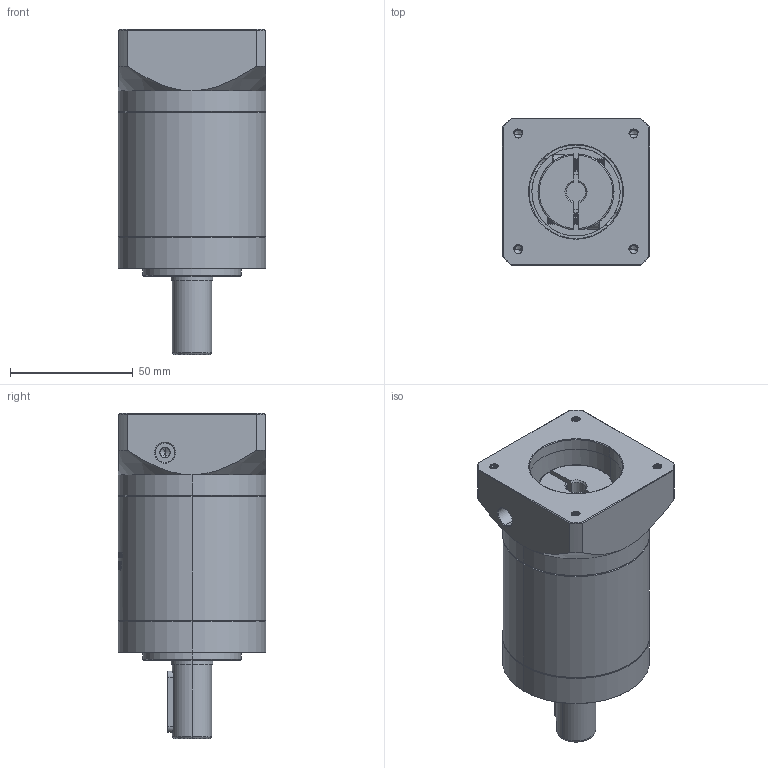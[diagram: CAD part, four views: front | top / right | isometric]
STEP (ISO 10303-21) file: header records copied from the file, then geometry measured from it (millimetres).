
FILE_DESCRIPTION (( 'STEP AP214' ), '1' );
FILE_NAME ('ZE60-D16-L2-8-38.1-47.14X47.14-M4.STEP', '2022-04-17T15:13:32', ( '' ), ( 'Microsoft' ), 'SwSTEP 2.0', 'SolidWorks 2016', '' );
FILE_SCHEMA (( 'AUTOMOTIVE_DESIGN' ));
Length unit declared in the file: millimetre
Products named in the file (1): ZE60-D16-L2-8-38.1-47.14X47.14-M4
Bounding box: 60 x 60 x 132.5 mm (x, y, z)
Volume: 269102.3 mm3; surface area: 46071.3 mm2
Topology: 6 solids, 6 shells, 1699 faces, 4623 edges, 2996 vertices
Faces by surface type: plane 732, cylinder 423, bspline 311, cone 215, torus 18
Entity records: 99765 total; most frequent: CARTESIAN_POINT 42577, ORIENTED_EDGE 9202, DIRECTION 6552, EDGE_CURVE 4601, VERTEX_POINT 2996, VECTOR 2294, LINE 2294, AXIS2_PLACEMENT_3D 2129
